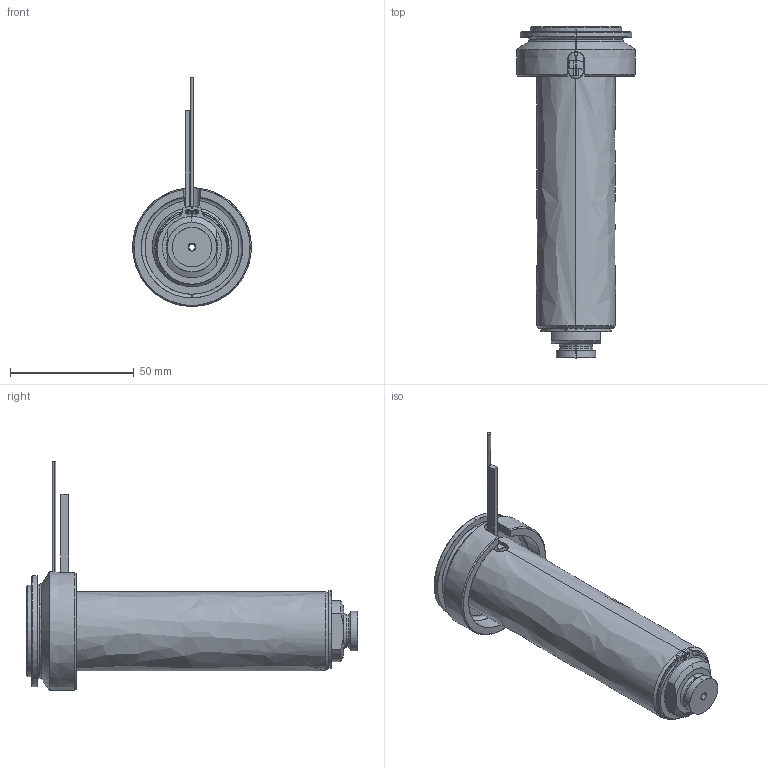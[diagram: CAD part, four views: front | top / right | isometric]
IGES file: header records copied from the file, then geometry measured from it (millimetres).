
Start section: SolidWorks IGES file using analytic representation for surfaces
Global section: file name: C:\Documents and Settings\ws-20\Desktop\TEMPORANEA\UGBE5003-M-A-3 [Ød-2.5 P-0 ØC-13].IGS; native system: SolidWorks 2012; preprocessor: SolidWorks 2012; author: ws-20; date: 120306.162007; units: millimetre
Bounding box: 48 x 134.25 x 92.62 mm (x, y, z)
Surface area: 49571.5 mm2 (no closed solid volume)
Topology: 0 solids, 0 shells, 109 faces, 2030 edges, 2030 vertices
Faces by surface type: revolution 64, bspline 45
